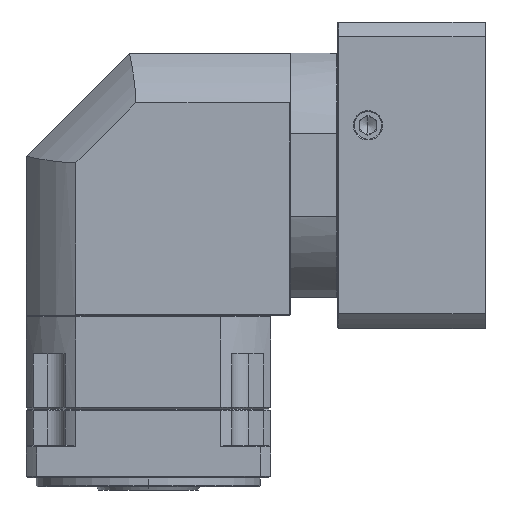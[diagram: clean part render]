
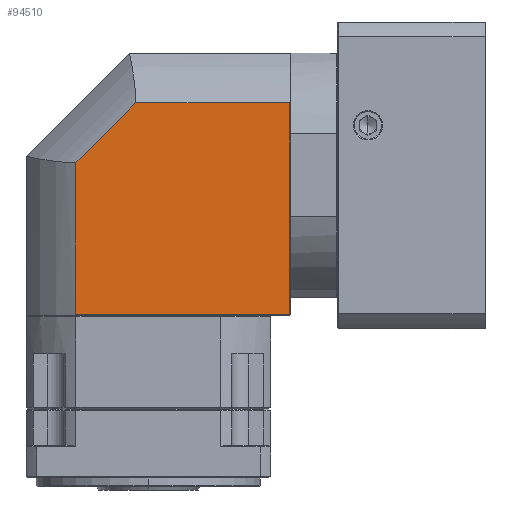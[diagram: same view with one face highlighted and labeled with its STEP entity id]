
A CAD part, left-side view. The second image highlights one B-rep face of the part: STEP entity #94510.
In plain terms, the highlighted planar face has unit normal (-1, 0, 0).
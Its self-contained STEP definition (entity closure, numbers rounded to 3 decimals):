
#2051 = PLANE ( 'NONE',  #84501 ) ;
#7382 = CARTESIAN_POINT ( 'NONE',  ( -71.401, 189.134, -296.108 ) ) ;
#7518 = CARTESIAN_POINT ( 'NONE',  ( -71.401, 112.884, -296.608 ) ) ;
#14020 = EDGE_CURVE ( 'NONE', #152749, #57947, #145120, .T. ) ;
#17111 = VERTEX_POINT ( 'NONE', #61732 ) ;
#18389 = CARTESIAN_POINT ( 'NONE',  ( -71.401, 236.899, -208.065 ) ) ;
#24309 = CARTESIAN_POINT ( 'NONE',  ( -71.401, 506.399, -173.393 ) ) ;
#34379 = ORIENTED_EDGE ( 'NONE', *, *, #76693, .F. ) ;
#37426 = CARTESIAN_POINT ( 'NONE',  ( -71.401, 112.884, -173.393 ) ) ;
#49914 = LINE ( 'NONE', #18389, #124551 ) ;
#50192 = DIRECTION ( 'NONE',  ( 0., -1., 0. ) ) ;
#52958 = CARTESIAN_POINT ( 'NONE',  ( -71.401, 236.899, -220.508 ) ) ;
#53978 = ORIENTED_EDGE ( 'NONE', *, *, #76337, .F. ) ;
#57947 = VERTEX_POINT ( 'NONE', #141409 ) ;
#58366 = DIRECTION ( 'NONE',  ( 0., -0.707, 0.707 ) ) ;
#61732 = CARTESIAN_POINT ( 'NONE',  ( -71.401, 112.884, -296.108 ) ) ;
#72801 = DIRECTION ( 'NONE',  ( 0., 0., 1. ) ) ;
#76337 = EDGE_CURVE ( 'NONE', #145285, #162255, #114815, .T. ) ;
#76693 = EDGE_CURVE ( 'NONE', #17111, #152749, #132716, .T. ) ;
#84501 = AXIS2_PLACEMENT_3D ( 'NONE', #106280, #143412, #119778 ) ;
#92039 = LINE ( 'NONE', #7518, #142319 ) ;
#94510 = ADVANCED_FACE ( 'NONE', ( #157850 ), #2051, .F. ) ;
#98982 = CARTESIAN_POINT ( 'NONE',  ( -71.401, 202.226, -173.393 ) ) ;
#102501 = CARTESIAN_POINT ( 'NONE',  ( -71.401, 236.899, -296.108 ) ) ;
#106075 = EDGE_CURVE ( 'NONE', #17111, #162255, #92039, .T. ) ;
#106280 = CARTESIAN_POINT ( 'NONE',  ( -71.401, 189.134, -220.508 ) ) ;
#106851 = VECTOR ( 'NONE', #130809, 1000. ) ;
#107826 = ORIENTED_EDGE ( 'NONE', *, *, #151699, .F. ) ;
#114815 = LINE ( 'NONE', #24309, #161127 ) ;
#117756 = DIRECTION ( 'NONE',  ( 0., 1., 0. ) ) ;
#118783 = EDGE_LOOP ( 'NONE', ( #134371, #34379, #133787, #53978, #107826 ) ) ;
#119778 = DIRECTION ( 'NONE',  ( 0., 0., -1. ) ) ;
#124551 = VECTOR ( 'NONE', #58366, 1000. ) ;
#130809 = DIRECTION ( 'NONE',  ( 0., 0., 1. ) ) ;
#132716 = LINE ( 'NONE', #7382, #142703 ) ;
#133787 = ORIENTED_EDGE ( 'NONE', *, *, #106075, .T. ) ;
#134371 = ORIENTED_EDGE ( 'NONE', *, *, #14020, .F. ) ;
#141409 = CARTESIAN_POINT ( 'NONE',  ( -71.401, 236.899, -208.065 ) ) ;
#142319 = VECTOR ( 'NONE', #72801, 1000. ) ;
#142703 = VECTOR ( 'NONE', #117756, 1000. ) ;
#143412 = DIRECTION ( 'NONE',  ( 1., 0., 0. ) ) ;
#145120 = LINE ( 'NONE', #52958, #106851 ) ;
#145285 = VERTEX_POINT ( 'NONE', #98982 ) ;
#151699 = EDGE_CURVE ( 'NONE', #57947, #145285, #49914, .T. ) ;
#152749 = VERTEX_POINT ( 'NONE', #102501 ) ;
#157850 = FACE_OUTER_BOUND ( 'NONE', #118783, .T. ) ;
#161127 = VECTOR ( 'NONE', #50192, 1000. ) ;
#162255 = VERTEX_POINT ( 'NONE', #37426 ) ;
